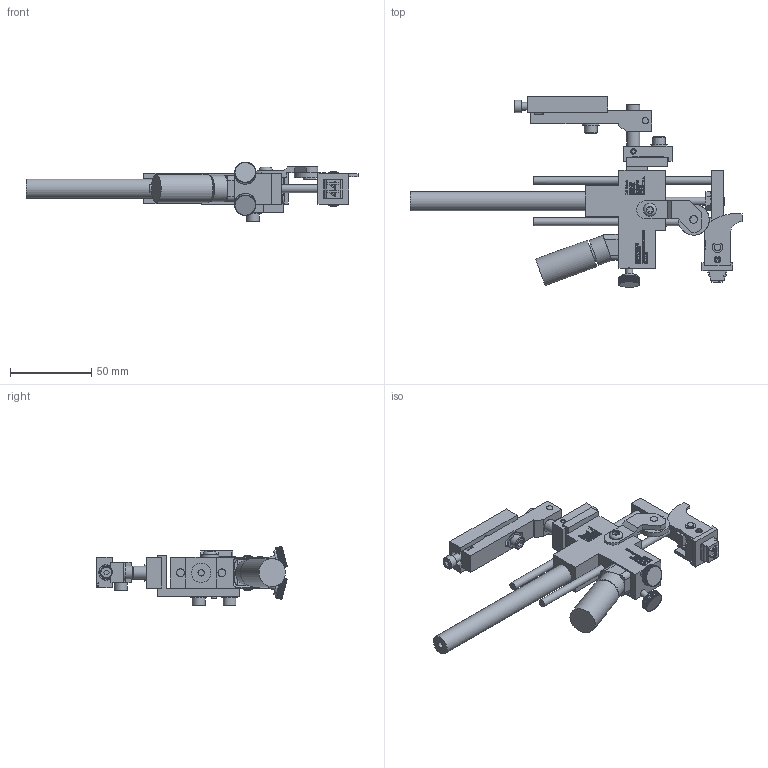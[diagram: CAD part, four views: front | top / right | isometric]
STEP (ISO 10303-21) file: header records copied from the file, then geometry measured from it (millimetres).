
FILE_DESCRIPTION((''),'2;1');
FILE_NAME('C:\Documents and Settings\Ron\My Documents\Inventor\Sprinter Drawing\Machines in Inventor\Model 44\Type\Ext Str\E1\Brkt\90\Model 44 ES1 type 90 Deg w brkt.stp','2009-01-14T11:52:42',('Ron'),(''),'Autodesk Inventor 2008','Autodesk Inventor 2008','');
FILE_SCHEMA(('AUTOMOTIVE_DESIGN { 1 0 10303 214 1 1 1 1 }'));
Length unit declared in the file: inch
Products named in the file (1): Model 44 ES1 type 90 Deg w brkt
Bounding box: 204.29 x 117.12 x 36.67 mm (x, y, z)
Volume: 108217.3 mm3; surface area: 52310.4 mm2
Topology: 31 solids, 31 shells, 6245 faces, 15512 edges, 9596 vertices
Faces by surface type: plane 4393, bspline 1324, cylinder 476, cone 48, torus 4
Full cylindrical faces by diameter (mm): 3.175 x4, 3.302 x1, 3.505 x1, 3.962 x1, 4.064 x7, 4.166 x1, 4.699 x1, 4.75 x5, 4.775 x1, 4.826 x7, 5.08 x1, 5.156 x5, 5.207 x2, 5.41 x2, 6.096 x1, 6.68 x1, 7.239 x1, 7.62 x1, 7.925 x7, 7.938 x1, 8.128 x1, 9.017 x1, 9.525 x2, 10.312 x4, 10.922 x1, 11.036 x1, 11.938 x2, 14.478 x1, 16.256 x1, 17.272 x1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
Entity records: 198866 total; most frequent: CARTESIAN_POINT 54384, ORIENTED_EDGE 30558, DIRECTION 23747, EDGE_CURVE 15279, VECTOR 11503, LINE 11503, VERTEX_POINT 9523, EDGE_LOOP 6810
